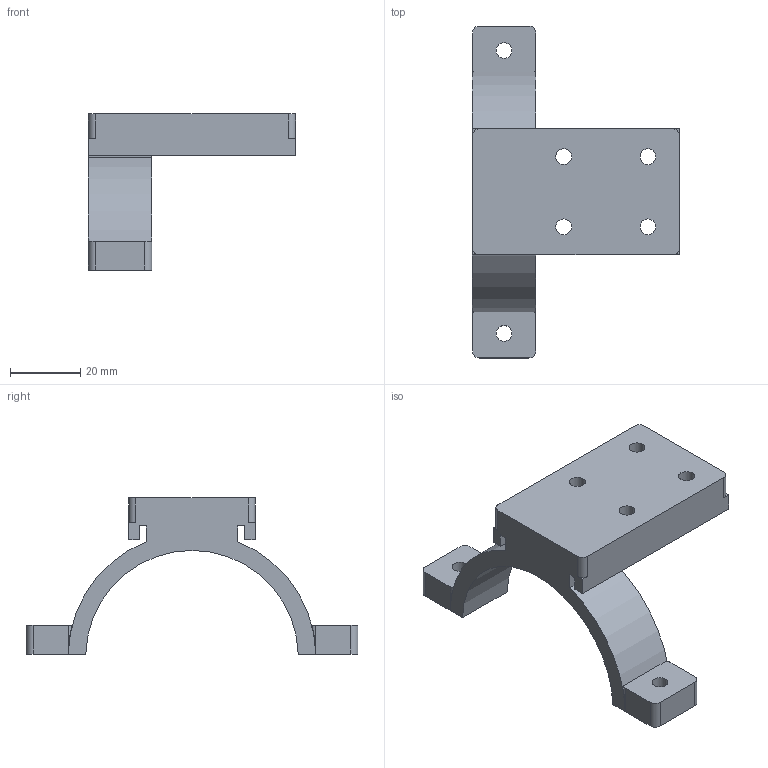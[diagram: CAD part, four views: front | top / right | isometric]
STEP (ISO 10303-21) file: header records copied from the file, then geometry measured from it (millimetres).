
FILE_DESCRIPTION(('Open CASCADE Model'),'2;1');
FILE_NAME('Open CASCADE Shape Model','2026-09-18T15:14:32',('Author'),( 'Open CASCADE'),'Open CASCADE STEP processor 7.9','Open CASCADE 7.9' ,'Unknown');
FILE_SCHEMA(('AUTOMOTIVE_DESIGN { 1 0 10303 214 1 1 1 1 }'));
Length unit declared in the file: millimetre
Products named in the file (1): Open CASCADE STEP translator 7.9 4
Bounding box: 59 x 94.6 x 44.55 mm (x, y, z)
Volume: 31729 mm3; surface area: 12722.1 mm2
Topology: 1 solids, 1 shells, 48 faces, 138 edges, 92 vertices
Faces by surface type: plane 27, cylinder 21
Full cylindrical faces by diameter (mm): 4.5 x6
Entity records: 3658 total; most frequent: CARTESIAN_POINT 939, DIRECTION 496, LINE 294, VECTOR 294, ORIENTED_EDGE 276, PCURVE 276, DEFINITIONAL_REPRESENTATION 276, EDGE_CURVE 138
